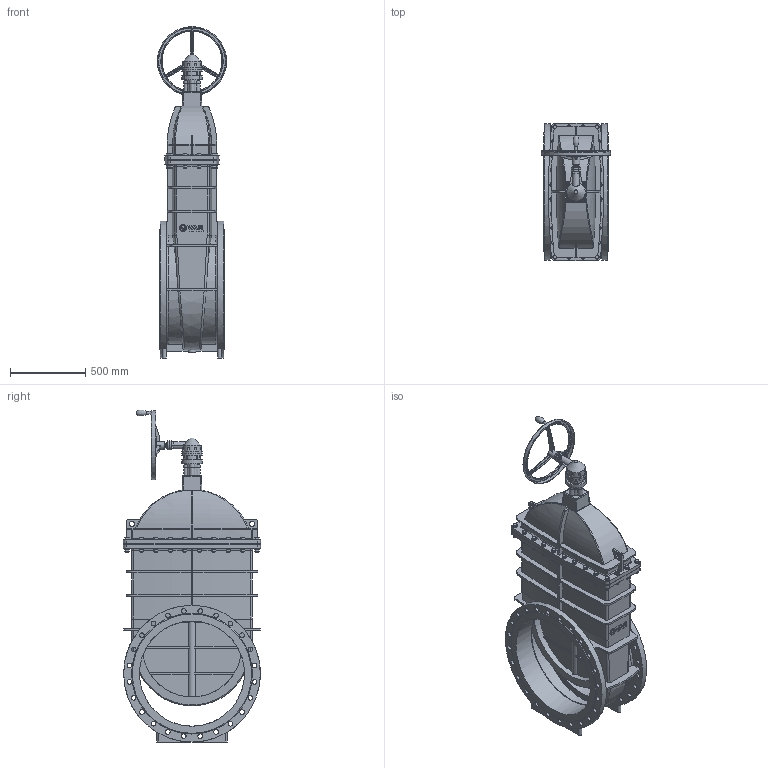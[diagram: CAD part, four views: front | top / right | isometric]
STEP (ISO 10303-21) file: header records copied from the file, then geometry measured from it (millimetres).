
FILE_DESCRIPTION(('STEP AP242'), '1');
FILE_NAME('青溻桄赅', '', ('UNSPECIFIED'), ('UNSPECIFIED'), 'C3D Converter', 'C3D Toolkit', '');
FILE_SCHEMA(('AP242_MANAGED_MODEL_BASED_3D_ENGINEERING_MIM_LF { 1 0 10303 442 1 1 4 }'));
Length unit declared in the file: millimetre
Assembly tree (171 placements, depth 2):
  (unnamed)
    (unnamed)
    (unnamed)
    (unnamed)
    (unnamed)  x2
    (unnamed)
    (unnamed)
    (unnamed)
    (unnamed)
    (unnamed)
    (unnamed)  x24
    (unnamed)  x48
    (unnamed)  x48
    (unnamed)  x24
    (unnamed)  x4
    (unnamed)  x12
    (unnamed)
Bounding box: 460 x 912.5 x 2209.82 mm (x, y, z)
Volume: 103097503.9 mm3; surface area: 11625372.6 mm2
Topology: 177 solids, 177 shells, 2940 faces, 6670 edges, 4180 vertices
Faces by surface type: plane 1589, cylinder 702, cone 364, extrusion 119, bspline 86, torus 80
Full cylindrical faces by diameter (mm): 3 x12, 4 x36, 6 x7, 7 x12, 8 x12, 12 x8, 13 x4, 13.835 x24, 16 x24, 17.5 x48, 18 x76, 20 x5, 24 x24, 26 x9, 28 x48, 31 x48, 36 x2, 40 x1, 47.045 x1, 50 x1, 52 x1, 52.333 x5, 60 x2, 109.912 x2, 135.463 x3, 400 x1, 410 x1, 450 x1, 460 x1, 660.5 x2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
Entity records: 67724 total; most frequent: CARTESIAN_POINT 30866, ORIENTED_EDGE 6032, DIRECTION 5995, EDGE_CURVE 3016, AXIS2_PLACEMENT_3D 2286, VERTEX_POINT 2114, EDGE_LOOP 1923, FACE_BOUND 1429
